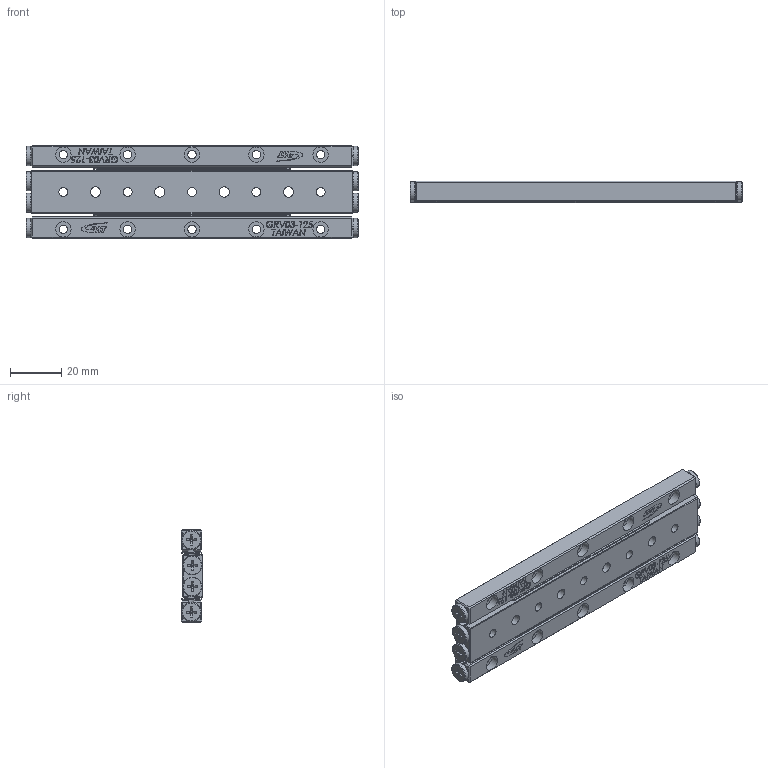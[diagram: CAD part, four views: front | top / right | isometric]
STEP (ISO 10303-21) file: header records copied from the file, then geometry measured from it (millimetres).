
FILE_DESCRIPTION (( 'STEP AP203' ), '1' );
FILE_NAME ('GRD03-125.STEP', '2023-10-30T06:47:31', ( '' ), ( '' ), 'SwSTEP 2.0', 'SolidWorks 2019', '' );
FILE_SCHEMA (( 'CONFIG_CONTROL_DESIGN' ));
Length unit declared in the file: millimetre
Products named in the file (4): GRD03-125-模糊化中軌; GRV03-125-模糊化軌道; GRD03-125; GRV03-125-模糊化保持器組
Assembly tree (5 placements, depth 2):
  GRD03-125
    GRD03-125-模糊化中軌
    GRV03-125-模糊化軌道  x2
    GRV03-125-模糊化保持器組  x2
Bounding box: 129 x 8.5 x 36 mm (x, y, z)
Volume: 31148.9 mm3; surface area: 20610.5 mm2
Topology: 5 solids, 5 shells, 1683 faces, 4151 edges, 2676 vertices
Faces by surface type: plane 1242, bspline 189, cylinder 104, torus 76, cone 72
Full cylindrical faces by diameter (mm): 3.3 x10, 3.5 x5, 4 x4, 6 x15, 7.5 x8
Entity records: 37772 total; most frequent: CARTESIAN_POINT 13628, ORIENTED_EDGE 5088, DIRECTION 4258, EDGE_CURVE 2544, VECTOR 1826, LINE 1826, VERTEX_POINT 1656, EDGE_LOOP 1246
